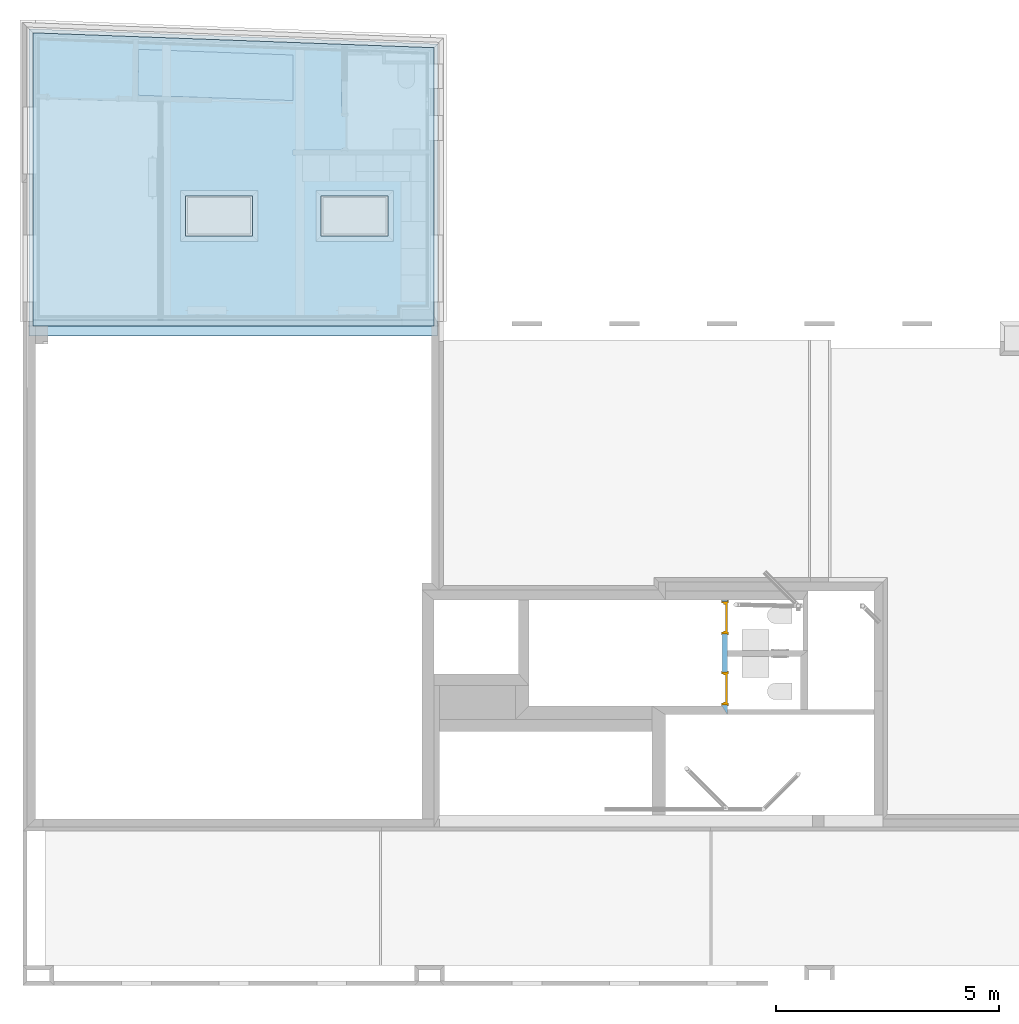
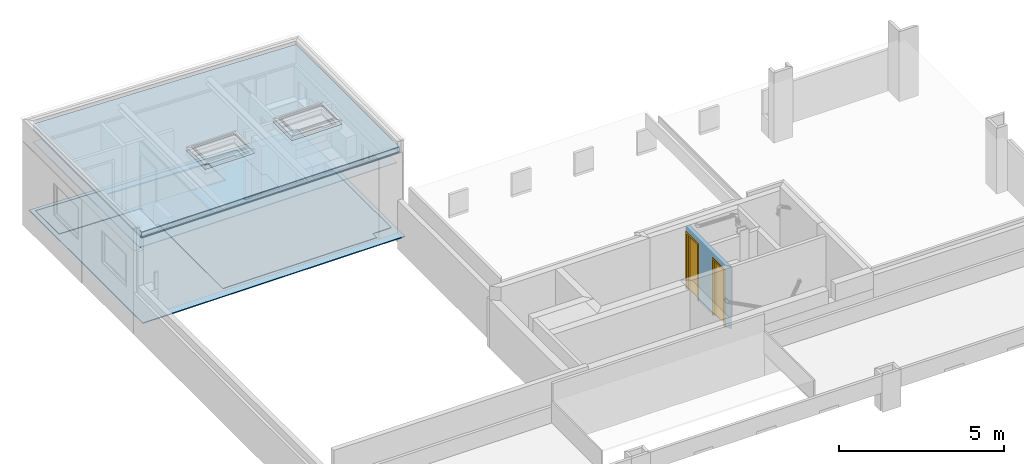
"""IFC2X3 building model written with IfcOpenShell, lengths in metres."""

from ifc_helpers import new_model, entity, si_unit, converted_unit, derived_unit, money_unit, direction, frame, frame_2d, origin_with_axes, place, context, subcontext, project, spatial, polyline, rectangle, outline, extrude, faceted_brep, material, layer, layer_set, layer_usage, type_object, element, fill, save


model = new_model("IFC2X3")

# Units and contexts
model_context = context("Model", 3, precision=1e-05, world=origin_with_axes(), true_north=direction((0.0, 1.0)))
body_context = subcontext(model_context, "Body", "Model", "MODEL_VIEW", scale=1.0)
ifc_project = project(units=[si_unit("LENGTHUNIT", "METRE"), si_unit("AREAUNIT", "SQUARE_METRE"), si_unit("VOLUMEUNIT", "CUBIC_METRE"), si_unit("ABSORBEDDOSEUNIT", "GRAY"), si_unit("AMOUNTOFSUBSTANCEUNIT", "MOLE"), si_unit("DOSEEQUIVALENTUNIT", "SIEVERT"), si_unit("ELECTRICCAPACITANCEUNIT", "FARAD"), si_unit("ELECTRICCHARGEUNIT", "COULOMB"), si_unit("ELECTRICCONDUCTANCEUNIT", "SIEMENS"), si_unit("ELECTRICCURRENTUNIT", "AMPERE"), si_unit("ELECTRICRESISTANCEUNIT", "OHM"), si_unit("ELECTRICVOLTAGEUNIT", "VOLT"), si_unit("ENERGYUNIT", "JOULE"), si_unit("FORCEUNIT", "NEWTON"), si_unit("FREQUENCYUNIT", "HERTZ"), si_unit("ILLUMINANCEUNIT", "LUX"), si_unit("INDUCTANCEUNIT", "HENRY"), si_unit("LUMINOUSFLUXUNIT", "LUMEN"), si_unit("LUMINOUSINTENSITYUNIT", "CANDELA"), si_unit("MAGNETICFLUXDENSITYUNIT", "TESLA"), si_unit("MAGNETICFLUXUNIT", "WEBER"), si_unit("MASSUNIT", "GRAM"), converted_unit("PLANEANGLEUNIT", "degree", entity("IfcReal", 0.0174532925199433), si_unit("PLANEANGLEUNIT", "RADIAN"), dimensions=[0, 0, 0, 0, 0, 0, 0]), si_unit("POWERUNIT", "WATT"), si_unit("PRESSUREUNIT", "PASCAL"), si_unit("RADIOACTIVITYUNIT", "BECQUEREL"), si_unit("SOLIDANGLEUNIT", "STERADIAN"), si_unit("THERMODYNAMICTEMPERATUREUNIT", "KELVIN"), si_unit("TIMEUNIT", "SECOND"), derived_unit("ACCELERATIONUNIT", [(si_unit("LENGTHUNIT", "METRE"), 1), (si_unit("TIMEUNIT", "SECOND"), -2)]), derived_unit("ANGULARVELOCITYUNIT", [(converted_unit("PLANEANGLEUNIT", "degree", entity("IfcReal", 0.0174532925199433), si_unit("PLANEANGLEUNIT", "RADIAN"), dimensions=[0, 0, 0, 0, 0, 0, 0]), 1), (si_unit("TIMEUNIT", "SECOND"), -1)]), derived_unit("CURVATUREUNIT", [(converted_unit("PLANEANGLEUNIT", "degree", entity("IfcReal", 0.0174532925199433), si_unit("PLANEANGLEUNIT", "RADIAN"), dimensions=[0, 0, 0, 0, 0, 0, 0]), 1), (si_unit("LENGTHUNIT", "METRE"), -1)]), derived_unit("DYNAMICVISCOSITYUNIT", [(si_unit("PRESSUREUNIT", "PASCAL"), 1), (si_unit("TIMEUNIT", "SECOND"), 1)]), derived_unit("HEATFLUXDENSITYUNIT", [(si_unit("POWERUNIT", "WATT"), 1), (si_unit("LENGTHUNIT", "METRE"), -2)]), derived_unit("HEATINGVALUEUNIT", [(si_unit("ENERGYUNIT", "JOULE"), 1), (si_unit("MASSUNIT", "GRAM"), -1)]), derived_unit("INTEGERCOUNTRATEUNIT", [(si_unit("TIMEUNIT", "SECOND"), -1)]), derived_unit("IONCONCENTRATIONUNIT", [(si_unit("MASSUNIT", "GRAM"), 1), (si_unit("VOLUMEUNIT", "CUBIC_METRE"), -1)]), derived_unit("ISOTHERMALMOISTURECAPACITYUNIT", [(si_unit("VOLUMEUNIT", "CUBIC_METRE"), 1), (si_unit("MASSUNIT", "GRAM"), -1)]), derived_unit("KINEMATICVISCOSITYUNIT", [(si_unit("AREAUNIT", "SQUARE_METRE"), 1), (si_unit("TIMEUNIT", "SECOND"), -1)]), derived_unit("LINEARFORCEUNIT", [(si_unit("FORCEUNIT", "NEWTON"), 1), (si_unit("LENGTHUNIT", "METRE"), -1)]), derived_unit("LINEARMOMENTUNIT", [(si_unit("FORCEUNIT", "NEWTON"), 1), (si_unit("LENGTHUNIT", "METRE"), -1)]), derived_unit("LINEARSTIFFNESSUNIT", [(si_unit("FORCEUNIT", "NEWTON"), 1), (si_unit("LENGTHUNIT", "METRE"), -1)]), derived_unit("LINEARVELOCITYUNIT", [(si_unit("LENGTHUNIT", "METRE"), 1), (si_unit("TIMEUNIT", "SECOND"), -1)]), derived_unit("LUMINOUSINTENSITYDISTRIBUTIONUNIT", [(si_unit("LUMINOUSINTENSITYUNIT", "CANDELA"), 1), (si_unit("LUMINOUSFLUXUNIT", "LUMEN"), -1)]), derived_unit("MASSDENSITYUNIT", [(si_unit("MASSUNIT", "GRAM"), 1), (si_unit("VOLUMEUNIT", "CUBIC_METRE"), -1)]), derived_unit("MASSFLOWRATEUNIT", [(si_unit("MASSUNIT", "GRAM"), 1), (si_unit("TIMEUNIT", "SECOND"), -1)]), derived_unit("MASSPERLENGTHUNIT", [(si_unit("MASSUNIT", "GRAM"), 1), (si_unit("LENGTHUNIT", "METRE"), -1)]), derived_unit("MODULUSOFELASTICITYUNIT", [(si_unit("FORCEUNIT", "NEWTON"), 1), (si_unit("AREAUNIT", "SQUARE_METRE"), -1)]), derived_unit("MODULUSOFLINEARSUBGRADEREACTIONUNIT", [(si_unit("FORCEUNIT", "NEWTON"), 1), (si_unit("LENGTHUNIT", "METRE"), -2)]), derived_unit("MODULUSOFROTATIONALSUBGRADEREACTIONUNIT", [(si_unit("FORCEUNIT", "NEWTON"), 1), (si_unit("LENGTHUNIT", "METRE"), 1)]), derived_unit("MODULUSOFSUBGRADEREACTIONUNIT", [(si_unit("FORCEUNIT", "NEWTON"), 1), (si_unit("VOLUMEUNIT", "CUBIC_METRE"), -1)]), derived_unit("MOISTUREDIFFUSIVITYUNIT", [(si_unit("VOLUMEUNIT", "CUBIC_METRE"), 1), (si_unit("TIMEUNIT", "SECOND"), -1)]), derived_unit("MOLECULARWEIGHTUNIT", [(si_unit("MASSUNIT", "GRAM"), 1), (si_unit("AMOUNTOFSUBSTANCEUNIT", "MOLE"), -1)]), derived_unit("PLANARFORCEUNIT", [(si_unit("FORCEUNIT", "NEWTON"), 1), (si_unit("LENGTHUNIT", "METRE"), -2)]), derived_unit("ROTATIONALFREQUENCYUNIT", [(si_unit("TIMEUNIT", "SECOND"), -1)]), derived_unit("ROTATIONALMASSUNIT", [(si_unit("MASSUNIT", "GRAM"), 1), (si_unit("LENGTHUNIT", "METRE"), 2)]), derived_unit("ROTATIONALSTIFFNESSUNIT", [(si_unit("FORCEUNIT", "NEWTON"), 1), (si_unit("LENGTHUNIT", "METRE"), 1), (converted_unit("PLANEANGLEUNIT", "degree", entity("IfcReal", 0.0174532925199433), si_unit("PLANEANGLEUNIT", "RADIAN"), dimensions=[0, 0, 0, 0, 0, 0, 0]), -1)]), derived_unit("SECTIONAREAINTEGRALUNIT", [(si_unit("LENGTHUNIT", "METRE"), 5)]), derived_unit("SECTIONMODULUSUNIT", [(si_unit("LENGTHUNIT", "METRE"), 3)]), derived_unit("SHEARMODULUSUNIT", [(si_unit("FORCEUNIT", "NEWTON"), 1), (si_unit("AREAUNIT", "SQUARE_METRE"), -1)]), derived_unit("SOUNDPOWERUNIT", [(si_unit("ENERGYUNIT", "JOULE"), 1), (si_unit("TIMEUNIT", "SECOND"), -1)]), derived_unit("SPECIFICHEATCAPACITYUNIT", [(si_unit("FORCEUNIT", "NEWTON"), 1), (si_unit("MASSUNIT", "GRAM"), -1), (si_unit("THERMODYNAMICTEMPERATUREUNIT", "KELVIN"), -1)]), derived_unit("TEMPERATUREGRADIENTUNIT", [(si_unit("THERMODYNAMICTEMPERATUREUNIT", "KELVIN"), 1), (si_unit("LENGTHUNIT", "METRE"), -1)]), derived_unit("THERMALADMITTANCEUNIT", [(si_unit("POWERUNIT", "WATT"), 1), (si_unit("AREAUNIT", "SQUARE_METRE"), -1), (si_unit("THERMODYNAMICTEMPERATUREUNIT", "KELVIN"), -1)]), derived_unit("THERMALCONDUCTANCEUNIT", [(si_unit("POWERUNIT", "WATT"), 1), (si_unit("LENGTHUNIT", "METRE"), -1), (si_unit("THERMODYNAMICTEMPERATUREUNIT", "KELVIN"), -1)]), derived_unit("THERMALEXPANSIONCOEFFICIENTUNIT", [(si_unit("THERMODYNAMICTEMPERATUREUNIT", "KELVIN"), -1)]), derived_unit("THERMALRESISTANCEUNIT", [(si_unit("AREAUNIT", "SQUARE_METRE"), 1), (si_unit("POWERUNIT", "WATT"), -1)]), derived_unit("THERMALTRANSMITTANCEUNIT", [(si_unit("POWERUNIT", "WATT"), 1), (si_unit("AREAUNIT", "SQUARE_METRE"), -1), (si_unit("THERMODYNAMICTEMPERATUREUNIT", "KELVIN"), -1)]), derived_unit("TORQUEUNIT", [(si_unit("FORCEUNIT", "NEWTON"), 1), (si_unit("LENGTHUNIT", "METRE"), 1)]), derived_unit("VAPORPERMEABILITYUNIT", [(si_unit("MASSUNIT", "GRAM"), 1), (si_unit("TIMEUNIT", "SECOND"), -1)]), derived_unit("VOLUMETRICFLOWRATEUNIT", [(si_unit("VOLUMEUNIT", "CUBIC_METRE"), 1), (si_unit("TIMEUNIT", "SECOND"), -1)]), derived_unit("WARPINGCONSTANTUNIT", [(si_unit("LENGTHUNIT", "METRE"), 6)]), derived_unit("WARPINGMOMENTUNIT", [(si_unit("FORCEUNIT", "NEWTON"), 1), (si_unit("LENGTHUNIT", "METRE"), 2)]), money_unit("GBP")], contexts=[model_context])

# Site, building, storey
site_placement = place(None, origin_with_axes())
site = spatial("IfcSite", under=ifc_project, at=site_placement, Name="Site", CompositionType="ELEMENT")
building_placement = place(site_placement, origin_with_axes())
building = spatial("IfcBuilding", under=site, at=building_placement, Name="Building01", CompositionType="ELEMENT")
storey_1_placement = place(building_placement, frame((0.0, 0.0, 2.6), z_axis=(0.0, 0.0, 1.0), x_axis=(1.0, 0.0, 0.0)))
storey_1 = spatial("IfcBuildingStorey", under=building, at=storey_1_placement, Name="MF", CompositionType="ELEMENT", Elevation=2.6)

# Slabs
ifc_material_1 = material(Name="A_BSUK_InternalFinishes_FloorScreed")
slab_type = type_object("IfcSlabType", Name="A-FloorsSlabs A_BSUK_Slabs", PredefinedType="FLOOR")
placement = place(storey_1_placement, frame((0.0, 0.0, -2.6), z_axis=(0.0, 0.0, 1.0), x_axis=(1.0, 0.0, 0.0)))
element("IfcSlab", 1, at=placement, inside=storey_1, type_object=slab_type, material=ifc_material_1, Name="A-FloorsSlabs A_BSUK_Slabs", ObjectType="CompoundSlabLeaf", context=body_context, shape_type="Brep", body=[
    faceted_brep([(9.303038, 14.580001, 3.167), (9.303038, 21.127455, 3.167), (0.140679, 21.46733, 3.167), (0.140679, 21.436217, 3.167), (0.140679, 14.580006, 3.167), (0.668282, 14.580006, 3.167), (0.668282, 14.580016, 3.167), (2.584185, 19.979174, 3.167), (2.600185, 21.008386, 3.167), (6.062509, 20.880804, 3.167), (6.06243, 19.859391, 3.167), (0.668282, 14.580016, 3.135), (0.668282, 14.580006, 3.135), (0.140679, 14.580006, 3.135), (0.140679, 21.436217, 3.135), (0.140679, 21.46733, 3.135), (9.303038, 21.127455, 3.135), (9.303038, 14.580001, 3.135), (2.584185, 19.979174, 3.135), (6.06243, 19.859391, 3.135), (6.062509, 20.880804, 3.135), (2.600185, 21.008386, 3.135)], [[[0, 1, 2, 3, 4, 5, 6], [7, 8, 9, 10]], [[11, 12, 13, 14, 15, 16, 17], [18, 19, 20, 21]], [[17, 0, 6, 11]], [[16, 1, 0, 17]], [[15, 2, 1, 16]], [[14, 3, 2, 15]], [[13, 4, 3, 14]], [[12, 5, 4, 13]], [[11, 6, 5, 12]], [[18, 21, 8, 7]], [[19, 18, 7, 10]], [[20, 19, 10, 9]], [[21, 20, 9, 8]]]),
])
ifc_material_2 = material(Name="A_BSUK_Parquet_Floor")
element("IfcSlab", 2, at=placement, inside=storey_1, type_object=slab_type, material=ifc_material_2, Name="A-FloorsSlabs A_BSUK_Slabs", ObjectType="CompoundSlabLeaf", context=body_context, shape_type="Brep", body=[
    faceted_brep([(8.516893, 14.93, 3.182), (8.516893, 15.168, 3.182), (9.154265, 15.168, 3.182), (9.154265, 18.639607, 3.182), (6.06243, 18.639607, 3.182), (6.06243, 18.752607, 3.182), (7.159608, 18.752607, 3.182), (7.159608, 18.78011, 3.182), (7.279608, 18.78011, 3.182), (7.279608, 19.51011, 3.182), (7.160903, 19.51011, 3.182), (7.150398, 21.06028, 3.182), (0.280897, 21.315124, 3.182), (0.280897, 19.90157, 3.182), (3.137414, 19.828341, 3.182), (3.137414, 19.740347, 3.182), (3.057414, 19.740347, 3.182), (3.057414, 18.840347, 3.182), (3.137414, 18.840347, 3.182), (3.137414, 14.93, 3.182), (4.398835, 14.93, 3.182), (4.398835, 14.93001, 3.182), (2.584185, 19.979174, 3.182), (2.600185, 21.008386, 3.182), (6.062509, 20.880804, 3.182), (6.06243, 19.859391, 3.182), (4.398835, 14.93001, 3.17), (4.398835, 14.93, 3.17), (3.137414, 14.93, 3.17), (3.137414, 18.840347, 3.17), (3.057414, 18.840347, 3.17), (3.057414, 19.740347, 3.17), (3.137414, 19.740347, 3.17), (3.137414, 19.828341, 3.17), (0.280897, 19.90157, 3.17), (0.280897, 21.315124, 3.17), (7.150398, 21.06028, 3.17), (7.160903, 19.51011, 3.17), (7.279608, 19.51011, 3.17), (7.279608, 18.78011, 3.17), (7.159608, 18.78011, 3.17), (7.159608, 18.752607, 3.17), (6.06243, 18.752607, 3.17), (6.06243, 18.639607, 3.17), (9.154265, 18.639607, 3.17), (9.154265, 15.168, 3.17), (8.516893, 15.168, 3.17), (8.516893, 14.93, 3.17), (2.584185, 19.979174, 3.17), (6.06243, 19.859391, 3.17), (6.062509, 20.880804, 3.17), (2.600185, 21.008386, 3.17)], [[[0, 1, 2, 3, 4, 5, 6, 7, 8, 9, 10, 11, 12, 13, 14, 15, 16, 17, 18, 19, 20, 21], [22, 23, 24, 25]], [[26, 27, 28, 29, 30, 31, 32, 33, 34, 35, 36, 37, 38, 39, 40, 41, 42, 43, 44, 45, 46, 47], [48, 49, 50, 51]], [[47, 0, 21, 26]], [[46, 1, 0, 47]], [[45, 2, 1, 46]], [[44, 3, 2, 45]], [[43, 4, 3, 44]], [[42, 5, 4, 43]], [[41, 6, 5, 42]], [[40, 7, 6, 41]], [[39, 8, 7, 40]], [[38, 9, 8, 39]], [[37, 10, 9, 38]], [[36, 11, 10, 37]], [[35, 12, 11, 36]], [[34, 13, 12, 35]], [[33, 14, 13, 34]], [[32, 15, 14, 33]], [[31, 16, 15, 32]], [[30, 17, 16, 31]], [[29, 18, 17, 30]], [[28, 19, 18, 29]], [[27, 20, 19, 28]], [[26, 21, 20, 27]], [[48, 51, 23, 22]], [[49, 48, 22, 25]], [[50, 49, 25, 24]], [[51, 50, 24, 23]]]),
])
ifc_material_3 = material(Name="A_BSUK_Insulation")
element("IfcSlab", 3, at=placement, inside=storey_1, type_object=slab_type, material=ifc_material_3, Name="A-FloorsSlabs A_BSUK_Slabs", ObjectType="CompoundSlabLeaf", context=body_context, shape_type="Brep", body=[
    faceted_brep([(9.226315, 14.800006, 6.345), (9.225486, 21.045273, 6.345), (0.225871, 21.37914, 6.345), (0.225624, 14.799995, 6.345), (8.197414, 17.72, 6.345), (8.197414, 16.82, 6.345), (6.697414, 16.82, 6.345), (6.697414, 17.72, 6.345), (5.157414, 17.72, 6.345), (5.157414, 16.82, 6.345), (3.657414, 16.82, 6.345), (3.657414, 17.72, 6.345), (0.225624, 14.799995, 6.185), (0.225871, 21.37914, 6.185), (9.225486, 21.045273, 6.185), (9.226315, 14.800006, 6.185), (8.197414, 17.72, 6.185), (6.697414, 17.72, 6.185), (6.697414, 16.82, 6.185), (8.197414, 16.82, 6.185), (5.157414, 17.72, 6.185), (3.657414, 17.72, 6.185), (3.657414, 16.82, 6.185), (5.157414, 16.82, 6.185)], [[[0, 1, 2, 3], [4, 5, 6, 7], [8, 9, 10, 11]], [[12, 13, 14, 15], [16, 17, 18, 19], [20, 21, 22, 23]], [[15, 0, 3, 12]], [[14, 1, 0, 15]], [[13, 2, 1, 14]], [[12, 3, 2, 13]], [[7, 17, 16, 4]], [[4, 16, 19, 5]], [[5, 19, 18, 6]], [[6, 18, 17, 7]], [[11, 21, 20, 8]], [[8, 20, 23, 9]], [[9, 23, 22, 10]], [[10, 22, 21, 11]]]),
])
ifc_material_4 = material(Name="A_BSUK_Timber_Miscellaneous")
element("IfcSlab", 4, at=placement, inside=storey_1, type_object=slab_type, material=ifc_material_4, Name="A-FloorsSlabs A_BSUK_Slabs", ObjectType="CompoundSlabLeaf", context=body_context, shape_type="Brep", body=[
    faceted_brep([(9.226315, 14.800006, 6.363), (9.225486, 21.045273, 6.363), (0.225871, 21.37914, 6.363), (0.225624, 14.799995, 6.363), (8.317414, 17.84, 6.363), (8.317414, 16.7, 6.363), (6.577414, 16.7, 6.363), (6.577414, 17.84, 6.363), (5.277414, 17.84, 6.363), (5.277414, 16.7, 6.363), (3.537414, 16.7, 6.363), (3.537414, 17.84, 6.363), (0.225624, 14.799995, 6.345), (0.225871, 21.37914, 6.345), (9.225486, 21.045273, 6.345), (9.226315, 14.800006, 6.345), (8.317414, 17.84, 6.345), (6.577414, 17.84, 6.345), (6.577414, 16.7, 6.345), (8.317414, 16.7, 6.345), (5.277414, 17.84, 6.345), (3.537414, 17.84, 6.345), (3.537414, 16.7, 6.345), (5.277414, 16.7, 6.345)], [[[0, 1, 2, 3], [4, 5, 6, 7], [8, 9, 10, 11]], [[12, 13, 14, 15], [16, 17, 18, 19], [20, 21, 22, 23]], [[15, 0, 3, 12]], [[14, 1, 0, 15]], [[13, 2, 1, 14]], [[12, 3, 2, 13]], [[7, 17, 16, 4]], [[4, 16, 19, 5]], [[5, 19, 18, 6]], [[6, 18, 17, 7]], [[11, 21, 20, 8]], [[8, 20, 23, 9]], [[9, 23, 22, 10]], [[10, 22, 21, 11]]]),
])
ifc_material_5 = material(Name="A_BSUK_Roofs")
element("IfcSlab", 5, at=placement, inside=storey_1, type_object=slab_type, material=ifc_material_5, Name="A-FloorsSlabs A_BSUK_Slabs", ObjectType="CompoundSlabLeaf", context=body_context, shape_type="Brep", body=[
    faceted_brep([(9.226315, 14.800006, 6.363), (9.226315, 14.800006, 6.365), (0.225624, 14.799995, 6.365), (0.225624, 14.799995, 6.363), (9.225486, 21.045273, 6.363), (9.225486, 21.045273, 6.365), (0.225871, 21.37914, 6.363), (0.225871, 21.37914, 6.365), (6.577414, 17.84, 6.365), (8.317414, 17.84, 6.365), (8.317414, 16.7, 6.365), (6.577414, 16.7, 6.365), (3.537414, 17.84, 6.365), (5.277414, 17.84, 6.365), (5.277414, 16.7, 6.365), (3.537414, 16.7, 6.365), (6.577414, 17.84, 6.363), (6.577414, 16.7, 6.363), (8.317414, 16.7, 6.363), (8.317414, 17.84, 6.363), (3.537414, 17.84, 6.363), (3.537414, 16.7, 6.363), (5.277414, 16.7, 6.363), (5.277414, 17.84, 6.363)], [[[0, 1, 2, 3]], [[4, 5, 1, 0]], [[6, 7, 5, 4]], [[3, 2, 7, 6]], [[1, 5, 7, 2], [8, 9, 10, 11], [12, 13, 14, 15]], [[3, 6, 4, 0], [16, 17, 18, 19], [20, 21, 22, 23]], [[8, 16, 19, 9]], [[9, 19, 18, 10]], [[10, 18, 17, 11]], [[11, 17, 16, 8]], [[12, 20, 23, 13]], [[13, 23, 22, 14]], [[14, 22, 21, 15]], [[15, 21, 20, 12]]]),
])
ifc_material_6 = material(Name="A_BSUK_ExpandedPolystyreneBoards")
element("IfcSlab", 6, at=placement, inside=storey_1, type_object=slab_type, material=ifc_material_6, Name="A-FloorsSlabs A_BSUK_Slabs", ObjectType="CompoundSlabLeaf", context=body_context, shape_type="Brep", body=[
    faceted_brep([(9.303038, 14.580001, 3.167), (9.303038, 14.580001, 3.17), (0.668282, 14.580016, 3.17), (0.668282, 14.580016, 3.167), (9.303038, 21.127455, 3.167), (9.303038, 21.127455, 3.17), (0.140679, 21.46733, 3.167), (0.140679, 21.46733, 3.17), (0.140679, 21.436217, 3.167), (0.140679, 21.436217, 3.17), (0.140679, 14.580006, 3.167), (0.140679, 14.580006, 3.17), (0.668282, 14.580006, 3.167), (0.668282, 14.580006, 3.17), (2.600185, 21.008386, 3.17), (6.062509, 20.880804, 3.17), (6.06243, 19.859391, 3.17), (2.584185, 19.979174, 3.17), (2.600185, 21.008386, 3.167), (2.584185, 19.979174, 3.167), (6.06243, 19.859391, 3.167), (6.062509, 20.880804, 3.167)], [[[0, 1, 2, 3]], [[4, 5, 1, 0]], [[6, 7, 5, 4]], [[8, 9, 7, 6]], [[10, 11, 9, 8]], [[12, 13, 11, 10]], [[3, 2, 13, 12]], [[1, 5, 7, 9, 11, 13, 2], [14, 15, 16, 17]], [[3, 12, 10, 8, 6, 4, 0], [18, 19, 20, 21]], [[18, 14, 17, 19]], [[19, 17, 16, 20]], [[20, 16, 15, 21]], [[21, 15, 14, 18]]]),
])
ifc_material_7 = material(Name="A_BSUK_CeilingSoffitFinishes_Suspended")
element("IfcSlab", 7, at=placement, inside=storey_1, type_object=slab_type, material=ifc_material_7, Name="A-FloorsSlabs A_BSUK_Slabs", ObjectType="CompoundSlabLeaf", context=body_context, shape_type="Brep", body=[
    faceted_brep([(9.226298, 14.93, 5.715), (9.225486, 21.045273, 5.715), (0.225871, 21.37914, 5.715), (0.225624, 14.93, 5.715), (8.197414, 17.72, 5.715), (8.197414, 16.82, 5.715), (6.697414, 16.82, 5.715), (6.697414, 17.72, 5.715), (5.157414, 17.72, 5.715), (5.157414, 16.82, 5.715), (3.657414, 16.82, 5.715), (3.657414, 17.72, 5.715), (0.225624, 14.93, 5.7), (0.225871, 21.37914, 5.7), (9.225486, 21.045273, 5.7), (9.226298, 14.93, 5.7), (8.197414, 17.72, 5.7), (6.697414, 17.72, 5.7), (6.697414, 16.82, 5.7), (8.197414, 16.82, 5.7), (5.157414, 17.72, 5.7), (3.657414, 17.72, 5.7), (3.657414, 16.82, 5.7), (5.157414, 16.82, 5.7)], [[[0, 1, 2, 3], [4, 5, 6, 7], [8, 9, 10, 11]], [[12, 13, 14, 15], [16, 17, 18, 19], [20, 21, 22, 23]], [[15, 0, 3, 12]], [[14, 1, 0, 15]], [[13, 2, 1, 14]], [[12, 3, 2, 13]], [[7, 17, 16, 4]], [[4, 16, 19, 5]], [[5, 19, 18, 6]], [[6, 18, 17, 7]], [[11, 21, 20, 8]], [[8, 20, 23, 9]], [[9, 23, 22, 10]], [[10, 22, 21, 11]]]),
])
ifc_material_8 = material(Name="A_BSUK_InternalFinishesCeilingOrSoffit")
element("IfcSlab", 8, at=placement, inside=storey_1, type_object=slab_type, material=ifc_material_8, Name="A-FloorsSlabs A_BSUK_Slabs", ObjectType="CompoundSlabLeaf", context=body_context, shape_type="Brep", body=[
    faceted_brep([(9.226315, 14.800006, 6.167), (9.225486, 21.045273, 6.167), (0.225871, 21.37914, 6.167), (0.225624, 14.799995, 6.167), (8.197414, 17.72, 6.167), (8.197414, 16.82, 6.167), (6.697414, 16.82, 6.167), (6.697414, 17.72, 6.167), (5.157414, 17.72, 6.167), (5.157414, 16.82, 6.167), (3.657414, 16.82, 6.167), (3.657414, 17.72, 6.167), (0.225624, 14.799995, 6.132), (0.225871, 21.37914, 6.132), (9.225486, 21.045273, 6.132), (9.226315, 14.800006, 6.132), (8.197414, 17.72, 6.132), (6.697414, 17.72, 6.132), (6.697414, 16.82, 6.132), (8.197414, 16.82, 6.132), (5.157414, 17.72, 6.132), (3.657414, 17.72, 6.132), (3.657414, 16.82, 6.132), (5.157414, 16.82, 6.132)], [[[0, 1, 2, 3], [4, 5, 6, 7], [8, 9, 10, 11]], [[12, 13, 14, 15], [16, 17, 18, 19], [20, 21, 22, 23]], [[15, 0, 3, 12]], [[14, 1, 0, 15]], [[13, 2, 1, 14]], [[12, 3, 2, 13]], [[7, 17, 16, 4]], [[4, 16, 19, 5]], [[5, 19, 18, 6]], [[6, 18, 17, 7]], [[11, 21, 20, 8]], [[8, 20, 23, 9]], [[9, 23, 22, 10]], [[10, 22, 21, 11]]]),
])
element("IfcSlab", 9, at=placement, inside=storey_1, type_object=slab_type, material=ifc_material_1, Name="A-FloorsSlabs A_BSUK_Slabs", ObjectType="CompoundSlabLeaf", context=body_context, shape_type="Brep", body=[
    faceted_brep([(9.226315, 14.800006, 6.185), (9.225486, 21.045273, 6.185), (0.225871, 21.37914, 6.185), (0.225624, 14.799995, 6.185), (8.197414, 17.72, 6.185), (8.197414, 16.82, 6.185), (6.697414, 16.82, 6.185), (6.697414, 17.72, 6.185), (5.157414, 17.72, 6.185), (5.157414, 16.82, 6.185), (3.657414, 16.82, 6.185), (3.657414, 17.72, 6.185), (0.225624, 14.799995, 6.167), (0.225871, 21.37914, 6.167), (9.225486, 21.045273, 6.167), (9.226315, 14.800006, 6.167), (8.197414, 17.72, 6.167), (6.697414, 17.72, 6.167), (6.697414, 16.82, 6.167), (8.197414, 16.82, 6.167), (5.157414, 17.72, 6.167), (3.657414, 17.72, 6.167), (3.657414, 16.82, 6.167), (5.157414, 16.82, 6.167)], [[[0, 1, 2, 3], [4, 5, 6, 7], [8, 9, 10, 11]], [[12, 13, 14, 15], [16, 17, 18, 19], [20, 21, 22, 23]], [[15, 0, 3, 12]], [[14, 1, 0, 15]], [[13, 2, 1, 14]], [[12, 3, 2, 13]], [[7, 17, 16, 4]], [[4, 16, 19, 5]], [[5, 19, 18, 6]], [[6, 18, 17, 7]], [[11, 21, 20, 8]], [[8, 20, 23, 9]], [[9, 23, 22, 10]], [[10, 22, 21, 11]]]),
])
element("IfcSlab", 10, at=placement, inside=storey_1, type_object=slab_type, material=ifc_material_7, Name="A-FloorsSlabs A_BSUK_Slabs", ObjectType="CompoundSlabLeaf", context=body_context, shape_type="Brep", body=[
    faceted_brep([(9.226298, 14.93, 5.7), (9.225486, 21.045273, 5.7), (0.225871, 21.37914, 5.7), (0.225624, 14.93, 5.7), (8.197414, 17.72, 5.7), (8.197414, 16.82, 5.7), (6.697414, 16.82, 5.7), (6.697414, 17.72, 5.7), (5.157414, 17.72, 5.7), (5.157414, 16.82, 5.7), (3.657414, 16.82, 5.7), (3.657414, 17.72, 5.7), (0.225624, 14.93, 5.685), (0.225871, 21.37914, 5.685), (9.225486, 21.045273, 5.685), (9.226298, 14.93, 5.685), (8.197414, 17.72, 5.685), (6.697414, 17.72, 5.685), (6.697414, 16.82, 5.685), (8.197414, 16.82, 5.685), (5.157414, 17.72, 5.685), (3.657414, 17.72, 5.685), (3.657414, 16.82, 5.685), (5.157414, 16.82, 5.685)], [[[0, 1, 2, 3], [4, 5, 6, 7], [8, 9, 10, 11]], [[12, 13, 14, 15], [16, 17, 18, 19], [20, 21, 22, 23]], [[15, 0, 3, 12]], [[14, 1, 0, 15]], [[13, 2, 1, 14]], [[12, 3, 2, 13]], [[7, 17, 16, 4]], [[4, 16, 19, 5]], [[5, 19, 18, 6]], [[6, 18, 17, 7]], [[11, 21, 20, 8]], [[8, 20, 23, 9]], [[9, 23, 22, 10]], [[10, 22, 21, 11]]]),
])

# Wall, openings
ifc_material_9 = material(Name="A_BSUK_WallsExternal_Block")
ifc_layer = layer(ifc_material_9, 0.118, ventilated=False)
ifc_layer_set = layer_set([ifc_layer])
ifc_layer_usage = layer_usage(ifc_layer_set, "AXIS2", "POSITIVE", 0.0)
wall_type = type_object("IfcWallType", Name="A-Walls-ExternalBlock", PredefinedType="NOTDEFINED")
wall_placement = place(storey_1_placement, frame((15.698265, 8.64741, 0.0), z_axis=(0.0, 0.0, 1.0), x_axis=(0.0, -1.0, 0.0)))
wall = element("IfcWallStandardCase", 11, at=wall_placement, inside=storey_1, type_object=wall_type, material=ifc_layer_usage, Name="A-Walls-ExternalBlock", ObjectType="A-Walls-ExternalBlock", context=body_context, shape_type="SweptSolid", body=[
    extrude(outline(polyline([(2.570426, 0.118), (0.0, 0.118), (0.0, 0.0), (2.376426, 0.0), (2.570426, 0.118)])), origin_with_axes(), (0.0, 0.0, 1.0), 2.3),
])
opening_1_placement = place(wall_placement, frame((1.615426, 0.0, 0.0), z_axis=(0.0, 0.0, 1.0), x_axis=(1.0, 0.0, 0.0)))
opening_1 = element("IfcOpeningElement", 12, at=opening_1_placement, cuts=wall, Name="Opening", ObjectType="Opening", context=body_context, shape_type="SweptSolid", body=[
    extrude(rectangle(XDim=2.1, YDim=0.734, at=frame_2d((-0.367, 1.05), x_axis=(0.0, -1.0))), frame((0.0, 0.0, 0.0), z_axis=(0.0, 1.0, 0.0), x_axis=(-1.0, 0.0, 0.0)), (0.0, 0.0, 1.0), 0.118),
])
opening_2_placement = place(wall_placement, frame((0.027, 0.0, 0.0), z_axis=(0.0, 0.0, 1.0), x_axis=(1.0, 0.0, 0.0)))
opening_2 = element("IfcOpeningElement", 13, at=opening_2_placement, cuts=wall, Name="Opening", ObjectType="Opening", context=body_context, shape_type="SweptSolid", body=[
    extrude(rectangle(XDim=2.1, YDim=0.734, at=frame_2d((-0.367, 1.05), x_axis=(0.0, -1.0))), frame((0.0, 0.0, 0.0), z_axis=(0.0, 1.0, 0.0), x_axis=(-1.0, 0.0, 0.0)), (0.0, 0.0, 1.0), 0.118),
])

# Storey, space
storey_2_placement = place(building_placement, origin_with_axes())
storey_2 = spatial("IfcBuildingStorey", under=building, at=storey_2_placement, Name="GF", CompositionType="ELEMENT", Elevation=0.0)
space_placement = place(storey_2_placement, frame((9.419099, 6.725761, 0.0), z_axis=(0.0, 0.0, 1.0), x_axis=(0.0, -1.0, 0.0)))
space = spatial("IfcSpace", under=storey_2, at=space_placement, Name="ENTRANCE", CompositionType="ELEMENT", InteriorOrExteriorSpace="NOTDEFINED")

# Door
ifc_material_10 = material(Name="A_BSUK_Doors")
door_style_1 = type_object("IfcDoorStyle", Name="A-Doors-SingleFlush", ConstructionType="USERDEFINED", OperationType="SINGLE_SWING_LEFT", ParameterTakesPrecedence=False, Sizeable=False)
door_1_placement = place(opening_2_placement, frame((0.042, 0.118, 0.0), z_axis=(0.0, 0.0, 1.0), x_axis=(1.0, 0.0, 0.0)))
door_1 = element("IfcDoor", 14, at=door_1_placement, inside=space, type_object=door_style_1, material=ifc_material_10, Name="0.20", ObjectType="A-Doors-SingleFlush", OverallHeight=2.1, OverallWidth=0.734, context=body_context, shape_type="Brep", body=[
    faceted_brep([(0.0, -0.137, 2.058), (0.65, -0.137, 2.058), (0.65, -0.137, 0.0), (0.719, -0.137, 0.0), (0.719, -0.137, 2.127), (-0.069, -0.137, 2.127), (-0.069, -0.137, 0.0), (0.0, -0.137, 0.0), (0.719, -0.118, 2.127), (0.719, -0.118, 0.0), (-0.069, -0.118, 0.0), (-0.069, -0.118, 2.127), (-0.042, -0.118, 0.0), (-0.042, 0.0, 0.0), (-0.069, 0.0, 0.0), (-0.069, 0.019, 0.0), (0.0, 0.019, 0.0), (0.0, 0.019, 2.058), (0.65, 0.019, 2.058), (-0.069, 0.019, 2.127), (0.719, 0.019, 2.127), (0.719, 0.019, 0.0), (0.65, 0.019, 0.0), (-0.069, 0.0, 2.127), (-0.042, 0.0, 2.1), (-0.042, -0.118, 2.1), (0.692, 0.0, 2.1), (0.692, -0.118, 2.1), (0.692, -0.118, 0.0), (0.692, 0.0, 0.0), (0.719, 0.0, 0.0), (0.719, 0.0, 2.127)], [[[0, 1, 2, 3, 4, 5, 6, 7]], [[8, 4, 3, 9]], [[10, 6, 5, 11]], [[11, 5, 4, 8]], [[7, 6, 10, 12, 13, 14, 15, 16]], [[7, 16, 17, 0]], [[0, 17, 18, 1]], [[17, 16, 15, 19, 20, 21, 22, 18]], [[1, 18, 22, 2]], [[14, 23, 19, 15]], [[24, 13, 12, 25]], [[26, 24, 25, 27]], [[11, 8, 9, 28, 27, 25, 12, 10]], [[27, 28, 29, 26]], [[26, 29, 30, 31, 23, 14, 13, 24]], [[22, 21, 30, 29, 28, 9, 3, 2]], [[30, 21, 20, 31]], [[31, 20, 19, 23]]]),
    faceted_brep([(0.65, -0.09, 0.0), (0.65, -0.04, 0.0), (0.65, -0.04, 2.058), (0.65, -0.09, 2.058), (0.025, -0.09, 2.033), (0.625, -0.09, 2.033), (0.625, -0.09, 0.0), (0.0, -0.09, 2.058), (0.0, -0.09, 0.0), (0.025, -0.09, 0.0), (0.0, -0.04, 0.0), (0.025, -0.04, 0.0), (0.0, -0.04, 2.058), (0.025, -0.04, 2.033), (0.625, -0.04, 0.0), (0.625, -0.04, 2.033)], [[[0, 1, 2, 3]], [[4, 5, 6, 0, 3, 7, 8, 9]], [[9, 8, 10, 11]], [[3, 2, 12, 7]], [[7, 12, 10, 8]], [[13, 11, 10, 12, 2, 1, 14, 15]], [[5, 15, 14, 6]], [[14, 1, 0, 6]], [[9, 11, 13, 4]], [[4, 13, 15, 5]]]),
    faceted_brep([(0.0, -0.04, 2.058), (0.0, 0.0, 2.058), (0.0, 0.0, 0.0), (0.0, -0.04, 0.0), (0.65, -0.04, 0.0), (0.65, 0.0, 0.0), (0.65, 0.0, 2.058), (0.65, -0.04, 2.058)], [[[0, 1, 2, 3]], [[4, 5, 6, 7]], [[3, 2, 5, 4]], [[3, 4, 7, 0]], [[7, 6, 1, 0]], [[1, 6, 5, 2]]]),
])

fill(opening_2, door_1)

door_style_2 = type_object("IfcDoorStyle", Name="A-Doors-SingleFlush", ConstructionType="USERDEFINED", OperationType="SINGLE_SWING_RIGHT", ParameterTakesPrecedence=False, Sizeable=False)
door_2_placement = place(opening_1_placement, frame((0.042, 0.118, 0.0), z_axis=(0.0, 0.0, 1.0), x_axis=(1.0, 0.0, 0.0)))
door_2 = element("IfcDoor", 15, at=door_2_placement, inside=space, type_object=door_style_2, material=ifc_material_10, Name="0.19", ObjectType="A-Doors-SingleFlush", OverallHeight=2.1, OverallWidth=0.734, context=body_context, shape_type="Brep", body=[
    faceted_brep([(0.65, -0.137, 0.0), (0.719, -0.137, 0.0), (0.719, -0.137, 2.127), (-0.069, -0.137, 2.127), (-0.069, -0.137, 0.0), (0.0, -0.137, 0.0), (0.0, -0.137, 2.058), (0.65, -0.137, 2.058), (-0.069, -0.118, 0.0), (-0.069, -0.118, 2.127), (0.719, -0.118, 2.127), (0.719, -0.118, 0.0), (0.65, 0.019, 0.0), (0.719, 0.019, 0.0), (0.719, 0.0, 0.0), (0.692, 0.0, 0.0), (0.692, -0.118, 0.0), (0.65, 0.019, 2.058), (0.0, 0.019, 2.058), (0.0, 0.019, 0.0), (-0.069, 0.019, 0.0), (-0.069, 0.019, 2.127), (0.719, 0.019, 2.127), (0.719, 0.0, 2.127), (0.692, -0.118, 2.1), (0.692, 0.0, 2.1), (-0.042, -0.118, 2.1), (-0.042, 0.0, 2.1), (-0.042, -0.118, 0.0), (-0.042, 0.0, 0.0), (-0.069, 0.0, 2.127), (-0.069, 0.0, 0.0)], [[[0, 1, 2, 3, 4, 5, 6, 7]], [[8, 4, 3, 9]], [[10, 2, 1, 11]], [[9, 3, 2, 10]], [[12, 13, 14, 15, 16, 11, 1, 0]], [[7, 17, 12, 0]], [[6, 18, 17, 7]], [[18, 19, 20, 21, 22, 13, 12, 17]], [[5, 19, 18, 6]], [[13, 22, 23, 14]], [[24, 16, 15, 25]], [[26, 24, 25, 27]], [[11, 16, 24, 26, 28, 8, 9, 10]], [[27, 29, 28, 26]], [[25, 15, 14, 23, 30, 31, 29, 27]], [[5, 4, 8, 28, 29, 31, 20, 19]], [[30, 21, 20, 31]], [[23, 22, 21, 30]]]),
    faceted_brep([(0.0, -0.09, 2.058), (0.0, -0.04, 2.058), (0.0, -0.04, 0.0), (0.0, -0.09, 0.0), (0.625, -0.09, 0.0), (0.65, -0.09, 0.0), (0.65, -0.09, 2.058), (0.025, -0.09, 0.0), (0.025, -0.09, 2.033), (0.625, -0.09, 2.033), (0.625, -0.04, 0.0), (0.65, -0.04, 0.0), (0.65, -0.04, 2.058), (0.025, -0.04, 2.033), (0.025, -0.04, 0.0), (0.625, -0.04, 2.033)], [[[0, 1, 2, 3]], [[4, 5, 6, 0, 3, 7, 8, 9]], [[10, 11, 5, 4]], [[6, 12, 1, 0]], [[5, 11, 12, 6]], [[13, 14, 2, 1, 12, 11, 10, 15]], [[7, 14, 13, 8]], [[7, 3, 2, 14]], [[9, 15, 10, 4]], [[8, 13, 15, 9]]]),
    faceted_brep([(0.65, -0.04, 0.0), (0.65, 0.0, 0.0), (0.65, 0.0, 2.058), (0.65, -0.04, 2.058), (0.0, -0.04, 2.058), (0.0, 0.0, 2.058), (0.0, 0.0, 0.0), (0.0, -0.04, 0.0)], [[[0, 1, 2, 3]], [[4, 5, 6, 7]], [[7, 6, 1, 0]], [[3, 4, 7, 0]], [[3, 2, 5, 4]], [[1, 6, 5, 2]]]),
])

fill(opening_1, door_2)

save(model, "model.ifc")
